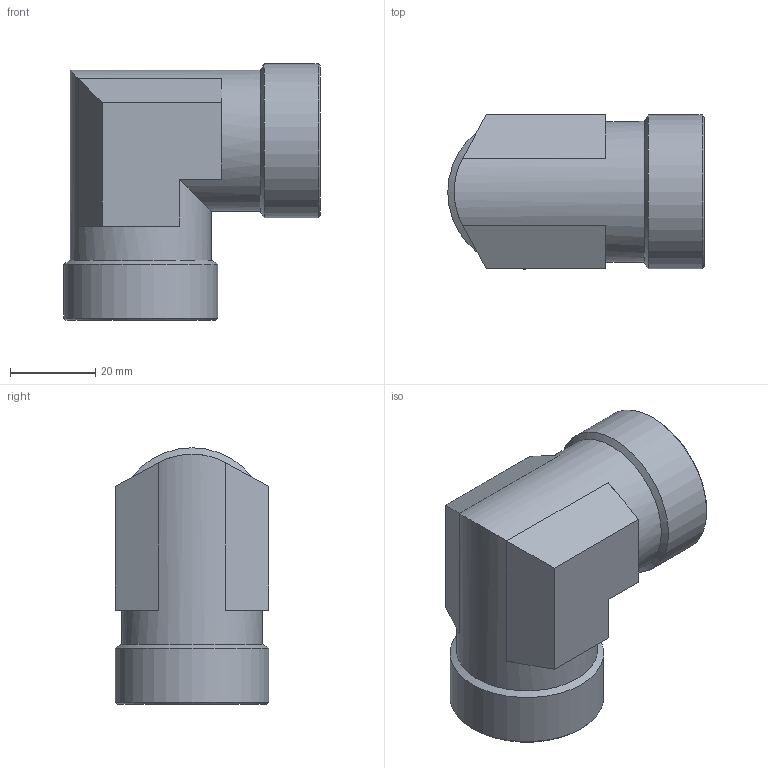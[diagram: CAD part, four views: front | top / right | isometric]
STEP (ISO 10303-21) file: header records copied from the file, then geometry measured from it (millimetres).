
FILE_DESCRIPTION( ( 'Unknown' ), '1' );
FILE_NAME( 'C:/Users/p.nanko/Desktop/3D SR/XW25S.stp', 'Unknown', ( 'Peter Nanko' ), ( 'Armaturen Arndt' ), 'PSStep 14.0', 'Solid Edge ST4', ' ' );
FILE_SCHEMA( ( 'AUTOMOTIVE_DESIGN { 1 0 10303 214 1 1 1 1 }' ) );
Length unit declared in the file: millimetre
Products named in the file (1): 1
Bounding box: 60 x 36 x 60 mm (x, y, z)
Volume: 48198.9 mm3; surface area: 16986.2 mm2
Topology: 1 solids, 1 shells, 38 faces, 81 edges, 47 vertices
Faces by surface type: plane 20, cylinder 12, cone 6
Full cylindrical faces by diameter (mm): 20 x2, 25 x2, 33 x2, 36 x2
Entity records: 1246 total; most frequent: DIRECTION 176, CARTESIAN_POINT 149, ORIENTED_EDGE 130, AXIS2_PLACEMENT_3D 72, EDGE_CURVE 65, EDGE_LOOP 56, FACE_OUTER_BOUND 46, VERTEX_POINT 45
